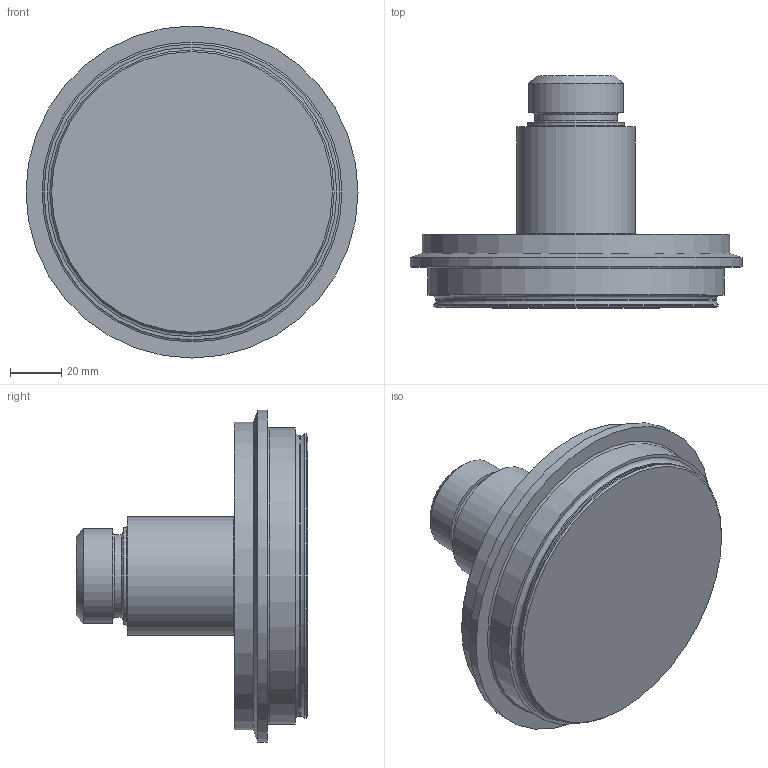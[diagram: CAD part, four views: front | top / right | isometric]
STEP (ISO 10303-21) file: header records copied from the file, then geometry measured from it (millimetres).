
FILE_DESCRIPTION(/* description */ ('STEP AP214'),/* implementation_level */ '2;1');
FILE_NAME(/* name */ 'C:\V\Delavan\Designs\Customer Shell Models\Valves\W61\WCB_w60_actuators_controltops_adapters_step_tcm11-10646 (2)\122308 4.STEP',/* time_stamp */ '2021-04-21T13:13:04+06:00',/* author */ ('H7M44K'),/* organization */ (''),/* preprocessor_version */ 'ST-DEVELOPER v18.1',/* originating_system */ 'Autodesk Inventor 2020',/* authorisation */ '');
FILE_SCHEMA (('AUTOMOTIVE_DESIGN { 1 0 10303 214 3 1 1 }'));
Length unit declared in the file: inch
Products named in the file (1): 122308
Bounding box: 130.18 x 90.88 x 130.18 mm (x, y, z)
Volume: 410572.8 mm3; surface area: 45186.5 mm2
Topology: 1 solids, 1 shells, 27 faces, 71 edges, 52 vertices
Faces by surface type: cylinder 9, plane 8, torus 7, cone 3
Full cylindrical faces by diameter (mm): 32.512 x1, 37.135 x1, 38.1 x1, 46.304 x1, 109.982 x1, 111.455 x1, 116.103 x1, 120.65 x1, 130.175 x1
Entity records: 939 total; most frequent: DIRECTION 186, CARTESIAN_POINT 151, ORIENTED_EDGE 142, AXIS2_PLACEMENT_3D 87, EDGE_CURVE 71, CIRCLE 59, VERTEX_POINT 52, EDGE_LOOP 33
